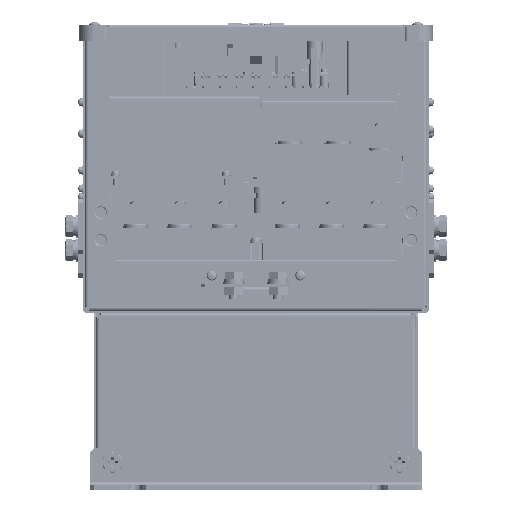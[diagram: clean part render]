
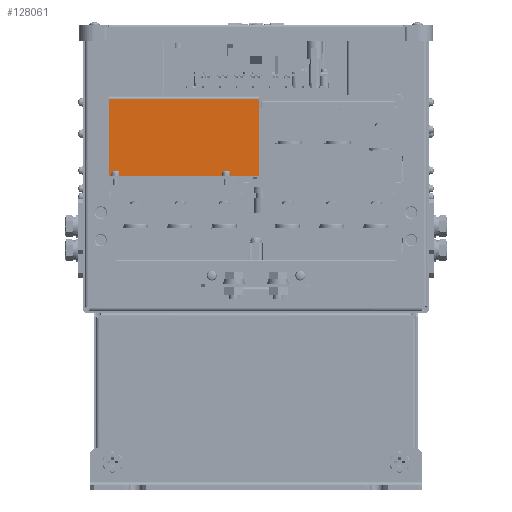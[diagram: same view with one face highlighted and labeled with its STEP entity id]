
A CAD part, front view. The second image highlights one B-rep face of the part: STEP entity #128061.
In plain terms, the highlighted planar face has unit normal (0, -1, 0).
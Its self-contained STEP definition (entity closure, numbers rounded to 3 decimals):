
#10481=DIRECTION('',(0.,0.,-1.));
#10482=VECTOR('',#10481,0.6);
#10483=CARTESIAN_POINT('',(-140.,-218.9,294.5));
#10484=LINE('',#10483,#10482);
#11396=DIRECTION('',(1.,0.,0.));
#11397=VECTOR('',#11396,27.6);
#11398=CARTESIAN_POINT('',(-24.6,-218.9,293.9));
#11399=LINE('',#11398,#11397);
#11629=DIRECTION('',(0.,0.,-1.));
#11630=VECTOR('',#11629,0.6);
#11631=CARTESIAN_POINT('',(-124.6,-218.9,294.5));
#11632=LINE('',#11631,#11630);
#11661=DIRECTION('',(0.,0.,1.));
#11662=VECTOR('',#11661,0.8);
#11663=CARTESIAN_POINT('',(-29.4,-218.9,294.5));
#11664=LINE('',#11663,#11662);
#11665=DIRECTION('',(0.,0.,-1.));
#11666=VECTOR('',#11665,0.6);
#11667=CARTESIAN_POINT('',(-29.4,-218.9,294.5));
#11668=LINE('',#11667,#11666);
#11669=DIRECTION('',(-1.,0.,0.));
#11670=VECTOR('',#11669,95.2);
#11671=CARTESIAN_POINT('',(-29.4,-218.9,293.9));
#11672=LINE('',#11671,#11670);
#11673=DIRECTION('',(0.,0.,1.));
#11674=VECTOR('',#11673,0.8);
#11675=CARTESIAN_POINT('',(-124.6,-218.9,294.5));
#11676=LINE('',#11675,#11674);
#11677=DIRECTION('',(1.,0.,0.));
#11678=VECTOR('',#11677,4.8);
#11679=CARTESIAN_POINT('',(-129.4,-218.9,295.3));
#11680=LINE('',#11679,#11678);
#11681=DIRECTION('',(0.,0.,1.));
#11682=VECTOR('',#11681,0.8);
#11683=CARTESIAN_POINT('',(-129.4,-218.9,294.5));
#11684=LINE('',#11683,#11682);
#11685=DIRECTION('',(0.,0.,-1.));
#11686=VECTOR('',#11685,0.6);
#11687=CARTESIAN_POINT('',(-129.4,-218.9,294.5));
#11688=LINE('',#11687,#11686);
#11689=DIRECTION('',(-1.,0.,0.));
#11690=VECTOR('',#11689,10.6);
#11691=CARTESIAN_POINT('',(-129.4,-218.9,293.9));
#11692=LINE('',#11691,#11690);
#11693=DIRECTION('',(0.,0.,1.));
#11694=VECTOR('',#11693,0.3);
#11695=CARTESIAN_POINT('',(-140.,-218.9,294.5));
#11696=LINE('',#11695,#11694);
#11697=DIRECTION('',(0.,0.,-1.));
#11698=VECTOR('',#11697,3.);
#11699=CARTESIAN_POINT('',(-140.,-218.9,297.8));
#11700=LINE('',#11699,#11698);
#11701=DIRECTION('',(1.,0.,0.));
#11702=VECTOR('',#11701,8.);
#11703=CARTESIAN_POINT('',(-148.,-218.9,297.8));
#11704=LINE('',#11703,#11702);
#11705=DIRECTION('',(0.707,0.,-0.707));
#11706=VECTOR('',#11705,5.657);
#11707=CARTESIAN_POINT('',(-152.,-218.9,301.8));
#11708=LINE('',#11707,#11706);
#11709=DIRECTION('',(0.,0.,1.));
#11710=VECTOR('',#11709,61.4);
#11711=CARTESIAN_POINT('',(-152.,-218.9,301.8));
#11712=LINE('',#11711,#11710);
#11713=DIRECTION('',(0.,0.,-1.));
#11714=VECTOR('',#11713,68.7);
#11715=CARTESIAN_POINT('',(3.,-218.9,363.2));
#11716=LINE('',#11715,#11714);
#11717=DIRECTION('',(0.,0.,-1.));
#11718=VECTOR('',#11717,0.6);
#11719=CARTESIAN_POINT('',(3.,-218.9,294.5));
#11720=LINE('',#11719,#11718);
#11721=DIRECTION('',(0.,0.,1.));
#11722=VECTOR('',#11721,0.8);
#11723=CARTESIAN_POINT('',(-24.6,-218.9,294.5));
#11724=LINE('',#11723,#11722);
#11725=DIRECTION('',(1.,0.,0.));
#11726=VECTOR('',#11725,4.8);
#11727=CARTESIAN_POINT('',(-29.4,-218.9,295.3));
#11728=LINE('',#11727,#11726);
#11776=DIRECTION('',(0.,0.,-1.));
#11777=VECTOR('',#11776,0.6);
#11778=CARTESIAN_POINT('',(-24.6,-218.9,294.5));
#11779=LINE('',#11778,#11777);
#12049=DIRECTION('',(1.,0.,0.));
#12050=VECTOR('',#12049,155.);
#12051=CARTESIAN_POINT('',(-152.,-218.9,363.2));
#12052=LINE('',#12051,#12050);
#98420=CARTESIAN_POINT('',(3.,-218.9,363.2));
#98421=VERTEX_POINT('',#98420);
#98422=CARTESIAN_POINT('',(-152.,-218.9,363.2));
#98423=VERTEX_POINT('',#98422);
#98424=CARTESIAN_POINT('',(3.,-218.9,294.5));
#98425=VERTEX_POINT('',#98424);
#98446=CARTESIAN_POINT('',(-140.,-218.9,297.8));
#98447=CARTESIAN_POINT('',(-140.,-218.9,294.8));
#98448=VERTEX_POINT('',#98446);
#98449=VERTEX_POINT('',#98447);
#98450=CARTESIAN_POINT('',(-140.,-218.9,294.5));
#98451=VERTEX_POINT('',#98450);
#98452=CARTESIAN_POINT('',(-152.,-218.9,301.8));
#98453=CARTESIAN_POINT('',(-148.,-218.9,297.8));
#98454=VERTEX_POINT('',#98452);
#98455=VERTEX_POINT('',#98453);
#98456=CARTESIAN_POINT('',(-129.4,-218.9,295.3));
#98457=CARTESIAN_POINT('',(-124.6,-218.9,295.3));
#98458=VERTEX_POINT('',#98456);
#98459=VERTEX_POINT('',#98457);
#98460=CARTESIAN_POINT('',(-29.4,-218.9,295.3));
#98461=CARTESIAN_POINT('',(-24.6,-218.9,295.3));
#98462=VERTEX_POINT('',#98460);
#98463=VERTEX_POINT('',#98461);
#98464=CARTESIAN_POINT('',(-124.6,-218.9,294.5));
#98465=VERTEX_POINT('',#98464);
#98466=CARTESIAN_POINT('',(-129.4,-218.9,294.5));
#98467=VERTEX_POINT('',#98466);
#98468=CARTESIAN_POINT('',(-24.6,-218.9,294.5));
#98469=VERTEX_POINT('',#98468);
#98470=CARTESIAN_POINT('',(-29.4,-218.9,294.5));
#98471=VERTEX_POINT('',#98470);
#111647=CARTESIAN_POINT('',(-24.6,-218.9,293.9));
#111648=CARTESIAN_POINT('',(3.,-218.9,293.9));
#111649=VERTEX_POINT('',#111647);
#111650=VERTEX_POINT('',#111648);
#111651=CARTESIAN_POINT('',(-129.4,-218.9,293.9));
#111652=CARTESIAN_POINT('',(-140.,-218.9,293.9));
#111653=VERTEX_POINT('',#111651);
#111654=VERTEX_POINT('',#111652);
#111655=CARTESIAN_POINT('',(-29.4,-218.9,293.9));
#111656=CARTESIAN_POINT('',(-124.6,-218.9,293.9));
#111657=VERTEX_POINT('',#111655);
#111658=VERTEX_POINT('',#111656);
#128024=CARTESIAN_POINT('',(-74.5,-218.9,292.3));
#128025=DIRECTION('',(0.,1.,0.));
#128026=DIRECTION('',(-1.,0.,0.));
#128027=AXIS2_PLACEMENT_3D('',#128024,#128025,#128026);
#128028=PLANE('',#128027);
#128030=ORIENTED_EDGE('',*,*,#128029,.F.);
#128032=ORIENTED_EDGE('',*,*,#128031,.T.);
#128033=ORIENTED_EDGE('',*,*,#127568,.T.);
#128034=ORIENTED_EDGE('',*,*,#127975,.F.);
#128035=ORIENTED_EDGE('',*,*,#127991,.T.);
#128036=ORIENTED_EDGE('',*,*,#128005,.F.);
#128037=ORIENTED_EDGE('',*,*,#128018,.F.);
#128038=ORIENTED_EDGE('',*,*,#127919,.T.);
#128039=ORIENTED_EDGE('',*,*,#127595,.T.);
#128040=ORIENTED_EDGE('',*,*,#126235,.F.);
#128041=ORIENTED_EDGE('',*,*,#126253,.T.);
#128042=ORIENTED_EDGE('',*,*,#126267,.F.);
#128043=ORIENTED_EDGE('',*,*,#126281,.F.);
#128044=ORIENTED_EDGE('',*,*,#126295,.F.);
#128045=ORIENTED_EDGE('',*,*,#126309,.T.);
#128047=ORIENTED_EDGE('',*,*,#128046,.T.);
#128049=ORIENTED_EDGE('',*,*,#128048,.T.);
#128051=ORIENTED_EDGE('',*,*,#128050,.T.);
#128052=ORIENTED_EDGE('',*,*,#127584,.F.);
#128054=ORIENTED_EDGE('',*,*,#128053,.F.);
#128056=ORIENTED_EDGE('',*,*,#128055,.T.);
#128058=ORIENTED_EDGE('',*,*,#128057,.F.);
#128059=EDGE_LOOP('',(#128030,#128032,#128033,#128034,#128035,#128036,#128037,
#128038,#128039,#128040,#128041,#128042,#128043,#128044,#128045,#128047,#128049,
#128051,#128052,#128054,#128056,#128058));
#128060=FACE_OUTER_BOUND('',#128059,.F.);
#126235=EDGE_CURVE('',#98451,#111654,#10484,.T.);
#126253=EDGE_CURVE('',#98451,#98449,#11696,.T.);
#126267=EDGE_CURVE('',#98448,#98449,#11700,.T.);
#126281=EDGE_CURVE('',#98455,#98448,#11704,.T.);
#126295=EDGE_CURVE('',#98454,#98455,#11708,.T.);
#126309=EDGE_CURVE('',#98454,#98423,#11712,.T.);
#127568=EDGE_CURVE('',#111657,#111658,#11672,.T.);
#127584=EDGE_CURVE('',#111649,#111650,#11399,.T.);
#127595=EDGE_CURVE('',#111653,#111654,#11692,.T.);
#127919=EDGE_CURVE('',#98467,#111653,#11688,.T.);
#127975=EDGE_CURVE('',#98465,#111658,#11632,.T.);
#127991=EDGE_CURVE('',#98465,#98459,#11676,.T.);
#128005=EDGE_CURVE('',#98458,#98459,#11680,.T.);
#128018=EDGE_CURVE('',#98467,#98458,#11684,.T.);
#128029=EDGE_CURVE('',#98471,#98462,#11664,.T.);
#128031=EDGE_CURVE('',#98471,#111657,#11668,.T.);
#128046=EDGE_CURVE('',#98423,#98421,#12052,.T.);
#128048=EDGE_CURVE('',#98421,#98425,#11716,.T.);
#128050=EDGE_CURVE('',#98425,#111650,#11720,.T.);
#128053=EDGE_CURVE('',#98469,#111649,#11779,.T.);
#128055=EDGE_CURVE('',#98469,#98463,#11724,.T.);
#128057=EDGE_CURVE('',#98462,#98463,#11728,.T.);
#128061=ADVANCED_FACE('',(#128060),#128028,.F.);
